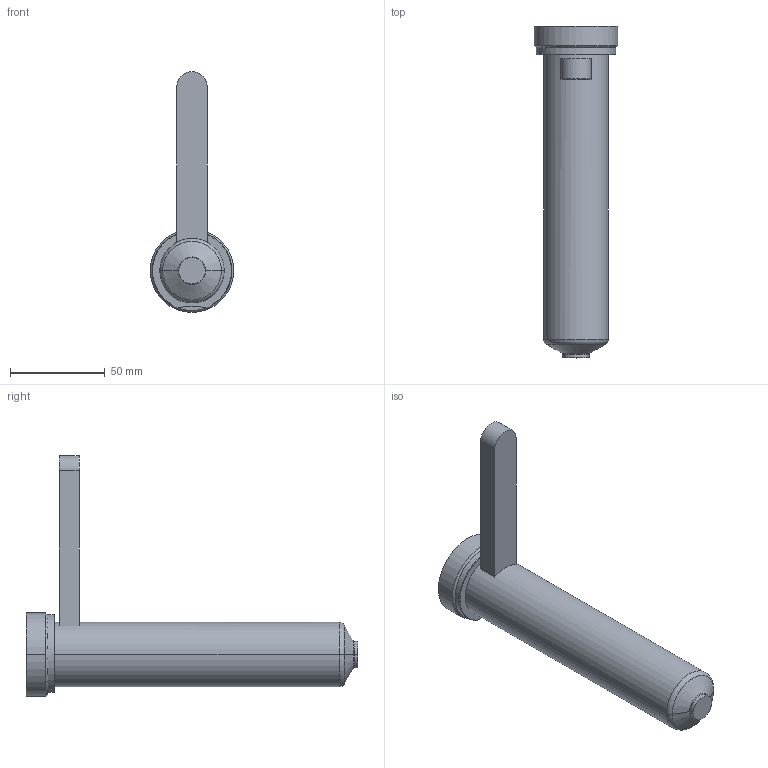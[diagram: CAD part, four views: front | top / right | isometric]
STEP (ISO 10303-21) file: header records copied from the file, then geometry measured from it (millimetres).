
FILE_DESCRIPTION((''),'2;1');
FILE_NAME('EO10_VG-ST_STD_160_COT','2024-02-19T12:47:05',('sundharh'),(''),'CREO PARAMETRIC BY PTC INC, 2023154','CREO PARAMETRIC BY PTC INC, 2023154','');
FILE_SCHEMA(('CONFIG_CONTROL_DESIGN'));
Length unit declared in the file: millimetre
Products named in the file (1): EO10_VG-ST_STD_160_COT
Bounding box: 44 x 175 x 127 mm (x, y, z)
Volume: 177823.5 mm3; surface area: 26001.6 mm2
Topology: 1 solids, 1 shells, 31 faces, 67 edges, 40 vertices
Faces by surface type: cylinder 11, plane 9, torus 7, cone 4
Entity records: 959 total; most frequent: CARTESIAN_POINT 226, DIRECTION 159, ORIENTED_EDGE 134, AXIS2_PLACEMENT_3D 67, EDGE_CURVE 67, VERTEX_POINT 40, CIRCLE 36, EDGE_LOOP 33
